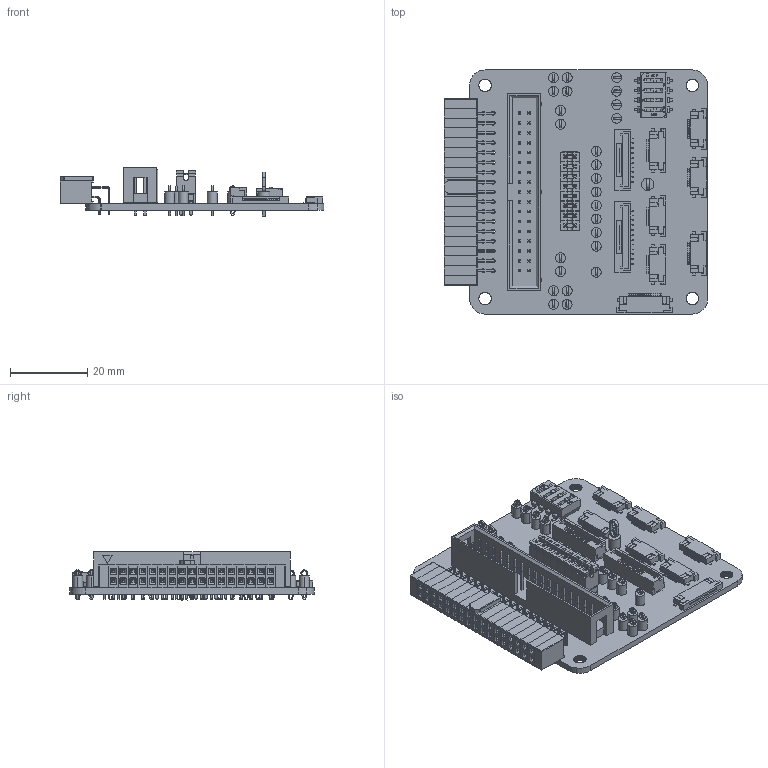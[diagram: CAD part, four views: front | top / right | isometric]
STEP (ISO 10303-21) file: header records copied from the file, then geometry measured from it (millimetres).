
FILE_DESCRIPTION(('Open CASCADE Model'),'2;1');
FILE_NAME('Open CASCADE Shape Model','2026-08-28T10:55:05',('Author'),( 'Open CASCADE'),'Open CASCADE STEP processor 7.5','Open CASCADE 7.5' ,'Unknown');
FILE_SCHEMA(('AUTOMOTIVE_DESIGN { 1 0 10303 214 1 1 1 1 }'));
Length unit declared in the file: millimetre
Products named in the file (73): PCB; Board; Open CASCADE STEP translator 7.5 738.1.1; X3; DS1021-2x8SF11; body; pin; J8; Jumper_C02SXGN-RC; J7; J6; J5; J4; J3; J2; J1; X41; ssfv18r_2stlf; X33; ssfv10r_2stlf; X32; X31; X30; X22; ssfv12r_2stlf; X21; X11; BM10B-GHS-TBT; X10; BM12B-GHS-TBT; X2; IDC Socket Male 34pin Straight THT Goldplated 2_54mm; X1; SFH11-xxPC-D17-RA-BK_34pin right angle conn; body section with RA gold pins; end; Polarizing Key; TP26; keystone-PN5115; TP25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
Assembly tree (197 placements, depth 4):
  PCB
    Board
      Open CASCADE STEP translator 7.5 738.1.1
    X3
      DS1021-2x8SF11
        body
        pin  x16
    J8
      Jumper_C02SXGN-RC
    J7
      Jumper_C02SXGN-RC
    J6
      Jumper_C02SXGN-RC
    J5
      Jumper_C02SXGN-RC
    J4
      Jumper_C02SXGN-RC
    J3
      Jumper_C02SXGN-RC
    J2
      Jumper_C02SXGN-RC
    J1
      Jumper_C02SXGN-RC
    X41
      ssfv18r_2stlf
    X33
      ssfv10r_2stlf
    X32
      ssfv10r_2stlf
    X31
      ssfv10r_2stlf
    X30
      ssfv10r_2stlf
    X22
      ssfv12r_2stlf
    X21
      ssfv12r_2stlf
    X11
      BM10B-GHS-TBT
    X10
      BM12B-GHS-TBT
    X2
      IDC Socket Male 34pin Straight THT Goldplated 2_54mm
    X1
      SFH11-xxPC-D17-RA-BK_34pin right angle conn
        body section with RA gold pins  x81
        end  x2
        Polarizing Key
    TP26
      keystone-PN5115
    TP25
      keystone-PN5004
    TP24
      keystone-PN5115
    TP23
      keystone-PN5004
    TP22
      keystone-PN5119
    TP21
      keystone-PN5119
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Bounding box: 68.04 x 63 x 12.44 mm (x, y, z)
Volume: 18256.4 mm3; surface area: 39190.2 mm2
Topology: 328 solids, 339 shells, 22141 faces, 53534 edges, 30236 vertices
Faces by surface type: plane 9574, cylinder 8174, sphere 1978, bspline 1715, torus 700
Full cylindrical faces by diameter (mm): 1 x109, 1.6 x1
Entity records: 137586 total; most frequent: CARTESIAN_POINT 27691, ORIENTED_EDGE 21164, DIRECTION 19436, EDGE_CURVE 10614, LINE 9394, VECTOR 9394, VERTEX_POINT 6824, AXIS2_PLACEMENT_3D 5021
